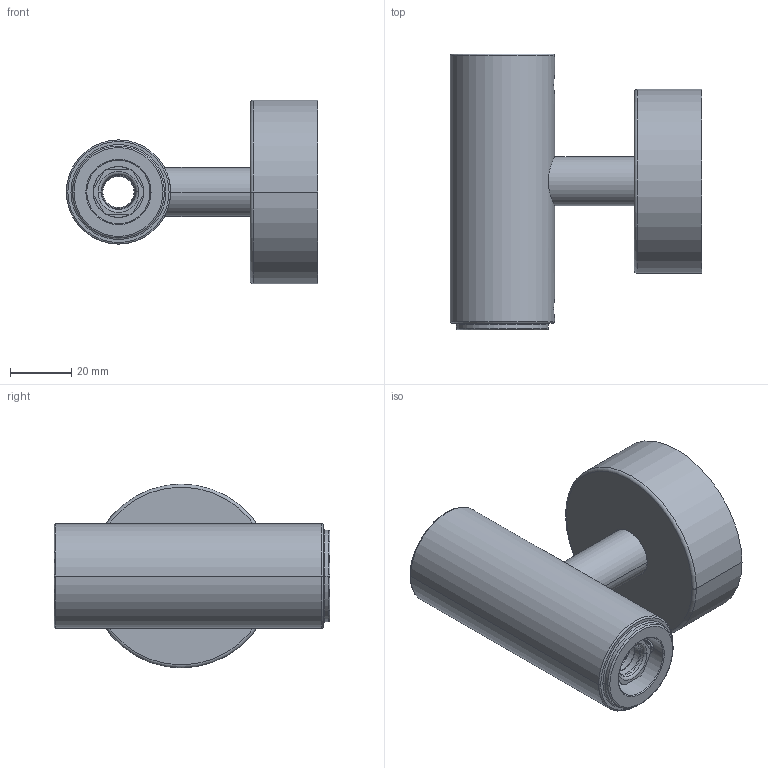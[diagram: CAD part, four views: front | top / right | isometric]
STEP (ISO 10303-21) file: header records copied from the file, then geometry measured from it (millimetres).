
FILE_DESCRIPTION((''),'2;1');
FILE_NAME('508461','2012-05-08T',('lff'),(''),'PRO/ENGINEER BY PARAMETRIC TECHNOLOGY CORPORATION, 2011080','PRO/ENGINEER BY PARAMETRIC TECHNOLOGY CORPORATION, 2011080','');
FILE_SCHEMA(('AUTOMOTIVE_DESIGN_CC2 { 1 2 10303 214 -1 1 5 2 }'));
Length unit declared in the file: millimetre
Products named in the file (1): 508461
Bounding box: 82 x 90 x 60 mm (x, y, z)
Volume: 92199.7 mm3; surface area: 41466.3 mm2
Topology: 3 solids, 4 shells, 323 faces, 713 edges, 425 vertices
Faces by surface type: cylinder 104, plane 87, torus 80, cone 48, bspline 4
Entity records: 12113 total; most frequent: CARTESIAN_POINT 2399, DIRECTION 1735, ORIENTED_EDGE 1422, AXIS2_PLACEMENT_3D 745, EDGE_CURVE 711, CIRCLE 426, VERTEX_POINT 425, EDGE_LOOP 364
